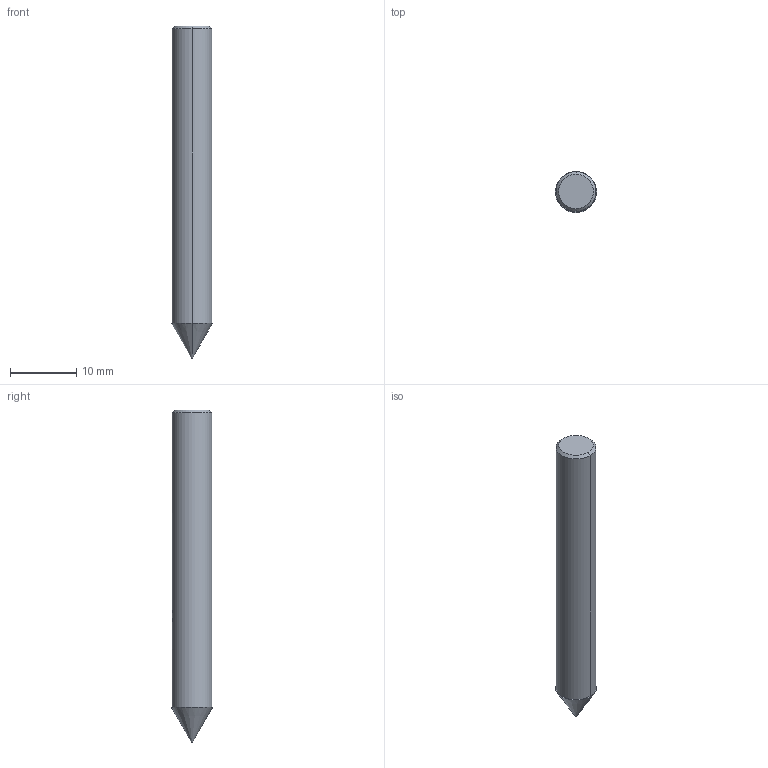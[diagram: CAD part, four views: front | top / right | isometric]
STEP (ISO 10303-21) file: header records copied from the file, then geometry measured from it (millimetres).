
FILE_DESCRIPTION(('no description'),'unknown implementation level');
FILE_NAME('solidhlwQTb9sTb5wG1ykcwlh7xnSuus_1.STP',' ',('CIMSOURCE GmbH'),('CADClick - KiM GmbH - www.kimweb.de'),'unknown preprocess','ACIS','unknown authorization');
FILE_SCHEMA(('automotive_design'));
Length unit declared in the file: millimetre
Products named in the file (2): NOCUT; CUT
Bounding box: 6.2 x 6.2 x 50 mm (x, y, z)
Volume: 1319.2 mm3; surface area: 994.8 mm2
Topology: 2 solids, 2 shells, 36 faces, 83 edges, 52 vertices
Faces by surface type: cylinder 14, cone 12, plane 10
Entity records: 2238 total; most frequent: CARTESIAN_POINT 393, DIRECTION 185, STYLED_ITEM 173, PRESENTATION_STYLE_ASSIGNMENT 173, COLOUR_RGB 173, ORIENTED_EDGE 166, EDGE_CURVE 83, CURVE_STYLE 83
